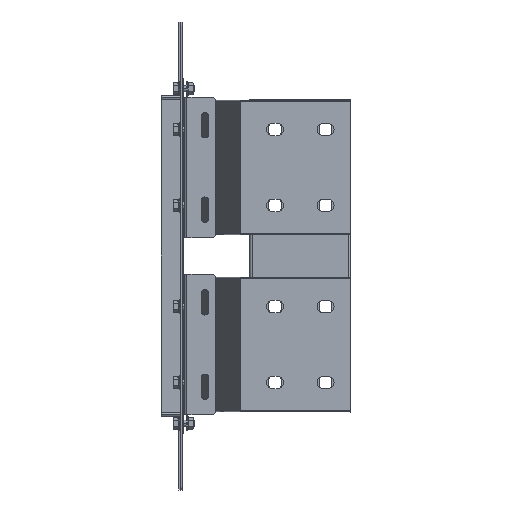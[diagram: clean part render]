
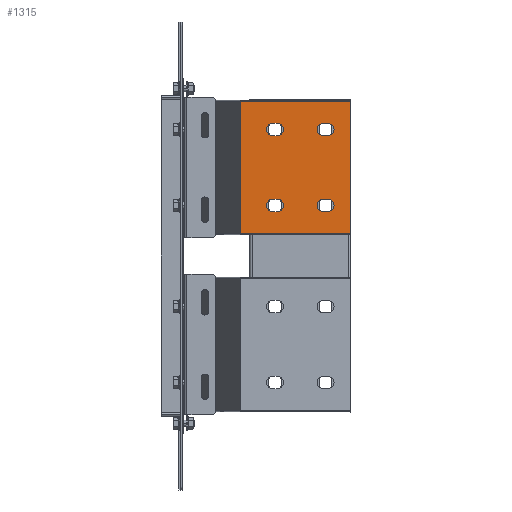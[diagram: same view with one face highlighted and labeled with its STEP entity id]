
A CAD part, front view. The second image highlights one B-rep face of the part: STEP entity #1315.
In plain terms, the highlighted planar face has unit normal (0, -1, 0).
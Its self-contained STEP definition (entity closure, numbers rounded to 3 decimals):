
#1143=AXIS2_PLACEMENT_3D('Plane Axis2P3D',#1140,#1141,#1142) ;
#1181=AXIS2_PLACEMENT_3D('Circle Axis2P3D',#1179,#1180,$) ;
#1197=AXIS2_PLACEMENT_3D('Circle Axis2P3D',#1195,#1196,$) ;
#1215=AXIS2_PLACEMENT_3D('Circle Axis2P3D',#1213,#1214,$) ;
#1231=AXIS2_PLACEMENT_3D('Circle Axis2P3D',#1229,#1230,$) ;
#1258=AXIS2_PLACEMENT_3D('Circle Axis2P3D',#1256,#1257,$) ;
#1272=AXIS2_PLACEMENT_3D('Circle Axis2P3D',#1270,#1271,$) ;
#1283=AXIS2_PLACEMENT_3D('Circle Axis2P3D',#1281,#1282,$) ;
#1299=AXIS2_PLACEMENT_3D('Circle Axis2P3D',#1297,#1298,$) ;
#1140=CARTESIAN_POINT('Axis2P3D Location',(200.,-151.625,-78.375)) ;
#1145=CARTESIAN_POINT('Line Origine',(134.458,-151.625,-78.375)) ;
#1149=CARTESIAN_POINT('Vertex',(200.,-151.625,-78.375)) ;
#1151=CARTESIAN_POINT('Vertex',(68.917,-151.625,-78.375)) ;
#1154=CARTESIAN_POINT('Line Origine',(200.,-151.625,0.)) ;
#1158=CARTESIAN_POINT('Vertex',(200.,-151.625,78.375)) ;
#1161=CARTESIAN_POINT('Line Origine',(134.458,-151.625,78.375)) ;
#1165=CARTESIAN_POINT('Vertex',(68.917,-151.625,78.375)) ;
#1168=CARTESIAN_POINT('Line Origine',(68.917,-151.625,0.)) ;
#1179=CARTESIAN_POINT('Axis2P3D Location',(112.5,-151.625,45.)) ;
#1183=CARTESIAN_POINT('Vertex',(112.5,-151.625,37.5)) ;
#1185=CARTESIAN_POINT('Vertex',(112.5,-151.625,52.5)) ;
#1188=CARTESIAN_POINT('Line Origine',(110.,-151.625,37.5)) ;
#1192=CARTESIAN_POINT('Vertex',(107.5,-151.625,37.5)) ;
#1195=CARTESIAN_POINT('Axis2P3D Location',(107.5,-151.625,45.)) ;
#1199=CARTESIAN_POINT('Vertex',(107.5,-151.625,52.5)) ;
#1202=CARTESIAN_POINT('Line Origine',(110.,-151.625,52.5)) ;
#1213=CARTESIAN_POINT('Axis2P3D Location',(172.5,-151.625,45.)) ;
#1217=CARTESIAN_POINT('Vertex',(172.5,-151.625,37.5)) ;
#1219=CARTESIAN_POINT('Vertex',(172.5,-151.625,52.5)) ;
#1222=CARTESIAN_POINT('Line Origine',(170.,-151.625,37.5)) ;
#1226=CARTESIAN_POINT('Vertex',(167.5,-151.625,37.5)) ;
#1229=CARTESIAN_POINT('Axis2P3D Location',(167.5,-151.625,45.)) ;
#1233=CARTESIAN_POINT('Vertex',(167.5,-151.625,52.5)) ;
#1236=CARTESIAN_POINT('Line Origine',(170.,-151.625,52.5)) ;
#1247=CARTESIAN_POINT('Line Origine',(170.,-151.625,-37.5)) ;
#1251=CARTESIAN_POINT('Vertex',(172.5,-151.625,-37.5)) ;
#1253=CARTESIAN_POINT('Vertex',(167.5,-151.625,-37.5)) ;
#1256=CARTESIAN_POINT('Axis2P3D Location',(172.5,-151.625,-45.)) ;
#1260=CARTESIAN_POINT('Vertex',(172.5,-151.625,-52.5)) ;
#1263=CARTESIAN_POINT('Line Origine',(170.,-151.625,-52.5)) ;
#1267=CARTESIAN_POINT('Vertex',(167.5,-151.625,-52.5)) ;
#1270=CARTESIAN_POINT('Axis2P3D Location',(167.5,-151.625,-45.)) ;
#1281=CARTESIAN_POINT('Axis2P3D Location',(107.5,-151.625,-45.)) ;
#1285=CARTESIAN_POINT('Vertex',(107.5,-151.625,-37.5)) ;
#1287=CARTESIAN_POINT('Vertex',(107.5,-151.625,-52.5)) ;
#1290=CARTESIAN_POINT('Line Origine',(110.,-151.625,-37.5)) ;
#1294=CARTESIAN_POINT('Vertex',(112.5,-151.625,-37.5)) ;
#1297=CARTESIAN_POINT('Axis2P3D Location',(112.5,-151.625,-45.)) ;
#1301=CARTESIAN_POINT('Vertex',(112.5,-151.625,-52.5)) ;
#1304=CARTESIAN_POINT('Line Origine',(110.,-151.625,-52.5)) ;
#1141=DIRECTION('Axis2P3D Direction',(0.,-1.,0.)) ;
#1142=DIRECTION('Axis2P3D XDirection',(0.,0.,1.)) ;
#1146=DIRECTION('Vector Direction',(-1.,0.,0.)) ;
#1155=DIRECTION('Vector Direction',(0.,0.,1.)) ;
#1162=DIRECTION('Vector Direction',(-1.,0.,0.)) ;
#1169=DIRECTION('Vector Direction',(0.,0.,1.)) ;
#1180=DIRECTION('Axis2P3D Direction',(0.,-1.,0.)) ;
#1189=DIRECTION('Vector Direction',(-1.,0.,0.)) ;
#1196=DIRECTION('Axis2P3D Direction',(0.,-1.,0.)) ;
#1203=DIRECTION('Vector Direction',(1.,0.,0.)) ;
#1214=DIRECTION('Axis2P3D Direction',(0.,-1.,0.)) ;
#1223=DIRECTION('Vector Direction',(1.,0.,0.)) ;
#1230=DIRECTION('Axis2P3D Direction',(0.,-1.,0.)) ;
#1237=DIRECTION('Vector Direction',(-1.,0.,0.)) ;
#1248=DIRECTION('Vector Direction',(1.,0.,0.)) ;
#1257=DIRECTION('Axis2P3D Direction',(0.,-1.,0.)) ;
#1264=DIRECTION('Vector Direction',(-1.,0.,0.)) ;
#1271=DIRECTION('Axis2P3D Direction',(0.,-1.,0.)) ;
#1282=DIRECTION('Axis2P3D Direction',(0.,-1.,0.)) ;
#1291=DIRECTION('Vector Direction',(-1.,0.,0.)) ;
#1298=DIRECTION('Axis2P3D Direction',(0.,-1.,0.)) ;
#1305=DIRECTION('Vector Direction',(1.,0.,0.)) ;
#1147=VECTOR('Line Direction',#1146,1.) ;
#1156=VECTOR('Line Direction',#1155,1.) ;
#1163=VECTOR('Line Direction',#1162,1.) ;
#1170=VECTOR('Line Direction',#1169,1.) ;
#1190=VECTOR('Line Direction',#1189,1.) ;
#1204=VECTOR('Line Direction',#1203,1.) ;
#1224=VECTOR('Line Direction',#1223,1.) ;
#1238=VECTOR('Line Direction',#1237,1.) ;
#1249=VECTOR('Line Direction',#1248,1.) ;
#1265=VECTOR('Line Direction',#1264,1.) ;
#1292=VECTOR('Line Direction',#1291,1.) ;
#1306=VECTOR('Line Direction',#1305,1.) ;
#1174=ORIENTED_EDGE('',*,*,#1153,.F.) ;
#1175=ORIENTED_EDGE('',*,*,#1160,.F.) ;
#1176=ORIENTED_EDGE('',*,*,#1167,.T.) ;
#1177=ORIENTED_EDGE('',*,*,#1172,.F.) ;
#1208=ORIENTED_EDGE('',*,*,#1187,.F.) ;
#1209=ORIENTED_EDGE('',*,*,#1194,.F.) ;
#1210=ORIENTED_EDGE('',*,*,#1201,.F.) ;
#1211=ORIENTED_EDGE('',*,*,#1206,.F.) ;
#1242=ORIENTED_EDGE('',*,*,#1221,.F.) ;
#1243=ORIENTED_EDGE('',*,*,#1228,.F.) ;
#1244=ORIENTED_EDGE('',*,*,#1235,.F.) ;
#1245=ORIENTED_EDGE('',*,*,#1240,.F.) ;
#1276=ORIENTED_EDGE('',*,*,#1255,.F.) ;
#1277=ORIENTED_EDGE('',*,*,#1262,.F.) ;
#1278=ORIENTED_EDGE('',*,*,#1269,.F.) ;
#1279=ORIENTED_EDGE('',*,*,#1274,.F.) ;
#1310=ORIENTED_EDGE('',*,*,#1289,.F.) ;
#1311=ORIENTED_EDGE('',*,*,#1296,.F.) ;
#1312=ORIENTED_EDGE('',*,*,#1303,.F.) ;
#1313=ORIENTED_EDGE('',*,*,#1308,.F.) ;
#1212=FACE_BOUND('',#1207,.T.) ;
#1246=FACE_BOUND('',#1241,.T.) ;
#1280=FACE_BOUND('',#1275,.T.) ;
#1314=FACE_BOUND('',#1309,.T.) ;
#1315=ADVANCED_FACE('N',(#1178,#1212,#1246,#1280,#1314),#1144,.T.) ;
#1182=CIRCLE('generated circle',#1181,7.5) ;
#1198=CIRCLE('generated circle',#1197,7.5) ;
#1216=CIRCLE('generated circle',#1215,7.5) ;
#1232=CIRCLE('generated circle',#1231,7.5) ;
#1259=CIRCLE('generated circle',#1258,7.5) ;
#1273=CIRCLE('generated circle',#1272,7.5) ;
#1284=CIRCLE('generated circle',#1283,7.5) ;
#1300=CIRCLE('generated circle',#1299,7.5) ;
#1153=EDGE_CURVE('',#1150,#1152,#1148,.T.) ;
#1160=EDGE_CURVE('',#1159,#1150,#1157,.F.) ;
#1167=EDGE_CURVE('',#1159,#1166,#1164,.T.) ;
#1172=EDGE_CURVE('',#1152,#1166,#1171,.T.) ;
#1187=EDGE_CURVE('',#1184,#1186,#1182,.T.) ;
#1194=EDGE_CURVE('',#1193,#1184,#1191,.F.) ;
#1201=EDGE_CURVE('',#1200,#1193,#1198,.T.) ;
#1206=EDGE_CURVE('',#1186,#1200,#1205,.F.) ;
#1221=EDGE_CURVE('',#1218,#1220,#1216,.T.) ;
#1228=EDGE_CURVE('',#1227,#1218,#1225,.T.) ;
#1235=EDGE_CURVE('',#1234,#1227,#1232,.T.) ;
#1240=EDGE_CURVE('',#1220,#1234,#1239,.T.) ;
#1255=EDGE_CURVE('',#1252,#1254,#1250,.F.) ;
#1262=EDGE_CURVE('',#1261,#1252,#1259,.T.) ;
#1269=EDGE_CURVE('',#1268,#1261,#1266,.F.) ;
#1274=EDGE_CURVE('',#1254,#1268,#1273,.T.) ;
#1289=EDGE_CURVE('',#1286,#1288,#1284,.T.) ;
#1296=EDGE_CURVE('',#1295,#1286,#1293,.T.) ;
#1303=EDGE_CURVE('',#1302,#1295,#1300,.T.) ;
#1308=EDGE_CURVE('',#1288,#1302,#1307,.T.) ;
#1173=EDGE_LOOP('',(#1174,#1175,#1176,#1177)) ;
#1207=EDGE_LOOP('',(#1208,#1209,#1210,#1211)) ;
#1241=EDGE_LOOP('',(#1242,#1243,#1244,#1245)) ;
#1275=EDGE_LOOP('',(#1276,#1277,#1278,#1279)) ;
#1309=EDGE_LOOP('',(#1310,#1311,#1312,#1313)) ;
#1178=FACE_OUTER_BOUND('',#1173,.T.) ;
#1148=LINE('Line',#1145,#1147) ;
#1157=LINE('Line',#1154,#1156) ;
#1164=LINE('Line',#1161,#1163) ;
#1171=LINE('Line',#1168,#1170) ;
#1191=LINE('Line',#1188,#1190) ;
#1205=LINE('Line',#1202,#1204) ;
#1225=LINE('Line',#1222,#1224) ;
#1239=LINE('Line',#1236,#1238) ;
#1250=LINE('Line',#1247,#1249) ;
#1266=LINE('Line',#1263,#1265) ;
#1293=LINE('Line',#1290,#1292) ;
#1307=LINE('Line',#1304,#1306) ;
#1144=PLANE('',#1143) ;
#1150=VERTEX_POINT('',#1149) ;
#1152=VERTEX_POINT('',#1151) ;
#1159=VERTEX_POINT('',#1158) ;
#1166=VERTEX_POINT('',#1165) ;
#1184=VERTEX_POINT('',#1183) ;
#1186=VERTEX_POINT('',#1185) ;
#1193=VERTEX_POINT('',#1192) ;
#1200=VERTEX_POINT('',#1199) ;
#1218=VERTEX_POINT('',#1217) ;
#1220=VERTEX_POINT('',#1219) ;
#1227=VERTEX_POINT('',#1226) ;
#1234=VERTEX_POINT('',#1233) ;
#1252=VERTEX_POINT('',#1251) ;
#1254=VERTEX_POINT('',#1253) ;
#1261=VERTEX_POINT('',#1260) ;
#1268=VERTEX_POINT('',#1267) ;
#1286=VERTEX_POINT('',#1285) ;
#1288=VERTEX_POINT('',#1287) ;
#1295=VERTEX_POINT('',#1294) ;
#1302=VERTEX_POINT('',#1301) ;
